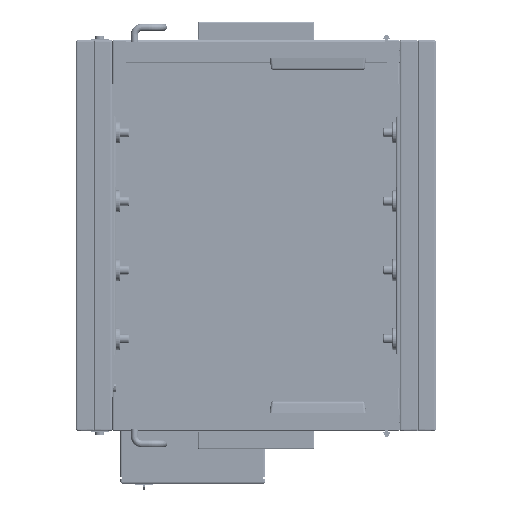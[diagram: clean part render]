
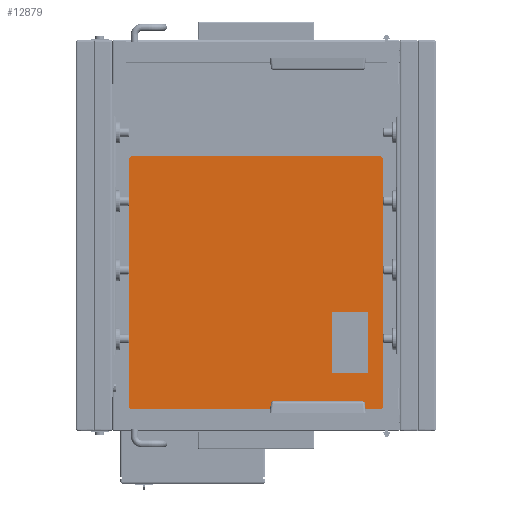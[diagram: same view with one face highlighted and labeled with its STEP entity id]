
A CAD part, front view. The second image highlights one B-rep face of the part: STEP entity #12879.
In plain terms, the highlighted planar face has unit normal (0, -1, 0).
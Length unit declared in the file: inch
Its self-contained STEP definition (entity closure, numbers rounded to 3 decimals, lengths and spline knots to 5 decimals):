
#1516 = CARTESIAN_POINT ( 'NONE',  ( 12.32611, 0., -8.66432 ) ) ;
#1533 = CARTESIAN_POINT ( 'NONE',  ( 19.32611, 0., 21.08568 ) ) ;
#1534 = CARTESIAN_POINT ( 'NONE',  ( 19.32611, 0., -13.41432 ) ) ;
#1537 = CARTESIAN_POINT ( 'NONE',  ( -15.67389, 0., -13.41432 ) ) ;
#1538 = CARTESIAN_POINT ( 'NONE',  ( -15.42389, 0., 21.33568 ) ) ;
#1539 = CARTESIAN_POINT ( 'NONE',  ( 19.07611, 0., 21.33568 ) ) ;
#1540 = CARTESIAN_POINT ( 'NONE',  ( 19.07611, 0., -13.66432 ) ) ;
#1541 = CARTESIAN_POINT ( 'NONE',  ( -15.67389, 0., 21.08568 ) ) ;
#1542 = CARTESIAN_POINT ( 'NONE',  ( 12.32611, 0., -0.16432 ) ) ;
#1543 = CARTESIAN_POINT ( 'NONE',  ( -15.42389, 0., -13.66432 ) ) ;
#1545 = CARTESIAN_POINT ( 'NONE',  ( 17.32611, 0., -8.66432 ) ) ;
#1546 = CARTESIAN_POINT ( 'NONE',  ( 17.32611, 0., -0.16432 ) ) ;
#6998 = EDGE_LOOP ( 'NONE', ( #14888, #14889, #14890, #14891 ) ) ;
#7000 = EDGE_LOOP ( 'NONE', ( #14880, #14881, #14882, #14883, #14884, #14885, #14886, #14887 ) ) ;
#12879 = ADVANCED_FACE ( 'NONE', ( #24142, #24144 ), #24145, .T. ) ;
#14880 = ORIENTED_EDGE ( 'NONE', *, *, #97166, .F. ) ;
#14881 = ORIENTED_EDGE ( 'NONE', *, *, #97167, .T. ) ;
#14882 = ORIENTED_EDGE ( 'NONE', *, *, #97168, .F. ) ;
#14883 = ORIENTED_EDGE ( 'NONE', *, *, #97169, .T. ) ;
#14884 = ORIENTED_EDGE ( 'NONE', *, *, #97170, .F. ) ;
#14885 = ORIENTED_EDGE ( 'NONE', *, *, #97171, .T. ) ;
#14886 = ORIENTED_EDGE ( 'NONE', *, *, #97172, .F. ) ;
#14887 = ORIENTED_EDGE ( 'NONE', *, *, #97173, .T. ) ;
#14888 = ORIENTED_EDGE ( 'NONE', *, *, #97174, .F. ) ;
#14889 = ORIENTED_EDGE ( 'NONE', *, *, #97175, .F. ) ;
#14890 = ORIENTED_EDGE ( 'NONE', *, *, #97176, .F. ) ;
#14891 = ORIENTED_EDGE ( 'NONE', *, *, #97177, .F. ) ;
#24134 = CARTESIAN_POINT ( 'NONE',  ( -15.67389, 0., -13.66432 ) ) ;
#24142 = FACE_OUTER_BOUND ( 'NONE', #7000, .T. ) ;
#24144 = FACE_BOUND ( 'NONE', #6998, .T. ) ;
#24145 = PLANE ( 'NONE',  #56638 ) ;
#24147 = DIRECTION ( 'NONE',  ( 0., -1., 0. ) ) ;
#24148 = DIRECTION ( 'NONE',  ( 0., 0., -1. ) ) ;
#56638 = AXIS2_PLACEMENT_3D ( 'NONE', #24134, #24147, #24148 ) ;
#78947 = VECTOR ( 'NONE', #82273, 39.37008 ) ;
#78952 = VECTOR ( 'NONE', #82279, 39.37008 ) ;
#78954 = VECTOR ( 'NONE', #82285, 39.37008 ) ;
#78956 = VECTOR ( 'NONE', #82290, 39.37008 ) ;
#78958 = VECTOR ( 'NONE', #82302, 39.37008 ) ;
#78960 = VECTOR ( 'NONE', #82297, 39.37008 ) ;
#78962 = VECTOR ( 'NONE', #82314, 39.37008 ) ;
#78964 = VECTOR ( 'NONE', #82309, 39.37008 ) ;
#78966 = VECTOR ( 'NONE', #82327, 39.37008 ) ;
#78967 = VECTOR ( 'NONE', #82321, 39.37008 ) ;
#78969 = VECTOR ( 'NONE', #82333, 39.37008 ) ;
#78971 = VECTOR ( 'NONE', #82339, 39.37008 ) ;
#82257 = LINE ( 'NONE', #82275, #78952 ) ;
#82259 = LINE ( 'NONE', #82269, #78947 ) ;
#82266 = LINE ( 'NONE', #82281, #78954 ) ;
#82269 = CARTESIAN_POINT ( 'NONE',  ( 19.32611, 0., 21.33568 ) ) ;
#82272 = LINE ( 'NONE', #82287, #78956 ) ;
#82273 = DIRECTION ( 'NONE',  ( 0., 0., -1. ) ) ;
#82275 = CARTESIAN_POINT ( 'NONE',  ( 19.20111, 0., 21.21068 ) ) ;
#82278 = LINE ( 'NONE', #82299, #78958 ) ;
#82279 = DIRECTION ( 'NONE',  ( -0.707, 0., 0.707 ) ) ;
#82281 = CARTESIAN_POINT ( 'NONE',  ( -15.67389, 0., 21.33568 ) ) ;
#82284 = LINE ( 'NONE', #82311, #78962 ) ;
#82285 = DIRECTION ( 'NONE',  ( 1., 0., 0. ) ) ;
#82287 = CARTESIAN_POINT ( 'NONE',  ( -33.04889, 0., 3.71068 ) ) ;
#82290 = DIRECTION ( 'NONE',  ( -0.707, 0., -0.707 ) ) ;
#82292 = LINE ( 'NONE', #82296, #78960 ) ;
#82294 = LINE ( 'NONE', #82323, #78966 ) ;
#82296 = CARTESIAN_POINT ( 'NONE',  ( -15.67389, 0., 21.33568 ) ) ;
#82297 = DIRECTION ( 'NONE',  ( 0., 0., 1. ) ) ;
#82299 = CARTESIAN_POINT ( 'NONE',  ( -15.54889, 0., -13.53932 ) ) ;
#82302 = DIRECTION ( 'NONE',  ( 0.707, 0., -0.707 ) ) ;
#82304 = LINE ( 'NONE', #82308, #78964 ) ;
#82306 = LINE ( 'NONE', #82329, #78969 ) ;
#82308 = CARTESIAN_POINT ( 'NONE',  ( -15.67389, 0., -13.66432 ) ) ;
#82309 = DIRECTION ( 'NONE',  ( -1., 0., 0. ) ) ;
#82311 = CARTESIAN_POINT ( 'NONE',  ( 1.70111, 0., -31.03932 ) ) ;
#82314 = DIRECTION ( 'NONE',  ( 0.707, 0., 0.707 ) ) ;
#82316 = LINE ( 'NONE', #82320, #78967 ) ;
#82318 = LINE ( 'NONE', #82335, #78971 ) ;
#82320 = CARTESIAN_POINT ( 'NONE',  ( 12.32611, 0., -8.66432 ) ) ;
#82321 = DIRECTION ( 'NONE',  ( 1., 0., 0. ) ) ;
#82323 = CARTESIAN_POINT ( 'NONE',  ( 12.32611, 0., -0.16432 ) ) ;
#82327 = DIRECTION ( 'NONE',  ( 0., 0., -1. ) ) ;
#82329 = CARTESIAN_POINT ( 'NONE',  ( 12.32611, 0., -0.16432 ) ) ;
#82333 = DIRECTION ( 'NONE',  ( -1., 0., 0. ) ) ;
#82335 = CARTESIAN_POINT ( 'NONE',  ( 17.32611, 0., -0.16432 ) ) ;
#82339 = DIRECTION ( 'NONE',  ( 0., 0., 1. ) ) ;
#97166 = EDGE_CURVE ( 'NONE', #99197, #99198, #82259, .T. ) ;
#97167 = EDGE_CURVE ( 'NONE', #99197, #99203, #82257, .T. ) ;
#97168 = EDGE_CURVE ( 'NONE', #99202, #99203, #82266, .T. ) ;
#97169 = EDGE_CURVE ( 'NONE', #99202, #99205, #82272, .T. ) ;
#97170 = EDGE_CURVE ( 'NONE', #99201, #99205, #82292, .T. ) ;
#97171 = EDGE_CURVE ( 'NONE', #99201, #99207, #82278, .T. ) ;
#97172 = EDGE_CURVE ( 'NONE', #99204, #99207, #82304, .T. ) ;
#97173 = EDGE_CURVE ( 'NONE', #99204, #99198, #82284, .T. ) ;
#97174 = EDGE_CURVE ( 'NONE', #99180, #99209, #82316, .T. ) ;
#97175 = EDGE_CURVE ( 'NONE', #99206, #99180, #82294, .T. ) ;
#97176 = EDGE_CURVE ( 'NONE', #99210, #99206, #82306, .T. ) ;
#97177 = EDGE_CURVE ( 'NONE', #99209, #99210, #82318, .T. ) ;
#99180 = VERTEX_POINT ( 'NONE', #1516 ) ;
#99197 = VERTEX_POINT ( 'NONE', #1533 ) ;
#99198 = VERTEX_POINT ( 'NONE', #1534 ) ;
#99201 = VERTEX_POINT ( 'NONE', #1537 ) ;
#99202 = VERTEX_POINT ( 'NONE', #1538 ) ;
#99203 = VERTEX_POINT ( 'NONE', #1539 ) ;
#99204 = VERTEX_POINT ( 'NONE', #1540 ) ;
#99205 = VERTEX_POINT ( 'NONE', #1541 ) ;
#99206 = VERTEX_POINT ( 'NONE', #1542 ) ;
#99207 = VERTEX_POINT ( 'NONE', #1543 ) ;
#99209 = VERTEX_POINT ( 'NONE', #1545 ) ;
#99210 = VERTEX_POINT ( 'NONE', #1546 ) ;
